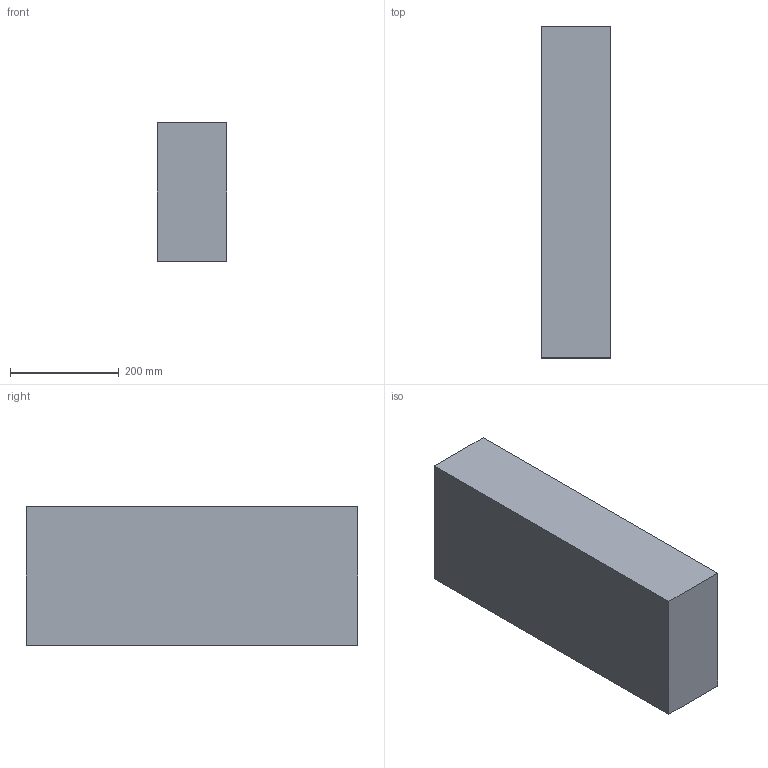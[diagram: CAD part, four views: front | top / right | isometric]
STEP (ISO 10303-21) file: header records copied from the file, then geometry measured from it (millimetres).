
FILE_DESCRIPTION(/* description */ (''),/* implementation_level */ '2;1');
FILE_NAME(/* name */ '5x10x24',/* time_stamp */ '2024-09-20T11:46:05-05:00',/* author */ (''),/* organization */ (''),/* preprocessor_version */ 'ST-DEVELOPER v19.2',/* originating_system */ 'Rhino 8.5',/* authorisation */ '');
FILE_SCHEMA (('CONFIG_CONTROL_DESIGN'));
Length unit declared in the file: inch
Products named in the file (1): Document
Bounding box: 127 x 609.6 x 254 mm (x, y, z)
Volume: 19664476.8 mm3; surface area: 529031.2 mm2
Topology: 1 solids, 1 shells, 6 faces, 12 edges, 8 vertices
Faces by surface type: plane 6
Entity records: 226 total; most frequent: CARTESIAN_POINT 40, ORIENTED_EDGE 24, EDGE_CURVE 12, B_SPLINE_CURVE_WITH_KNOTS 12, DIRECTION 10, VERTEX_POINT 8, AXIS2_PLACEMENT_3D 8, ORGANIZATION 7
